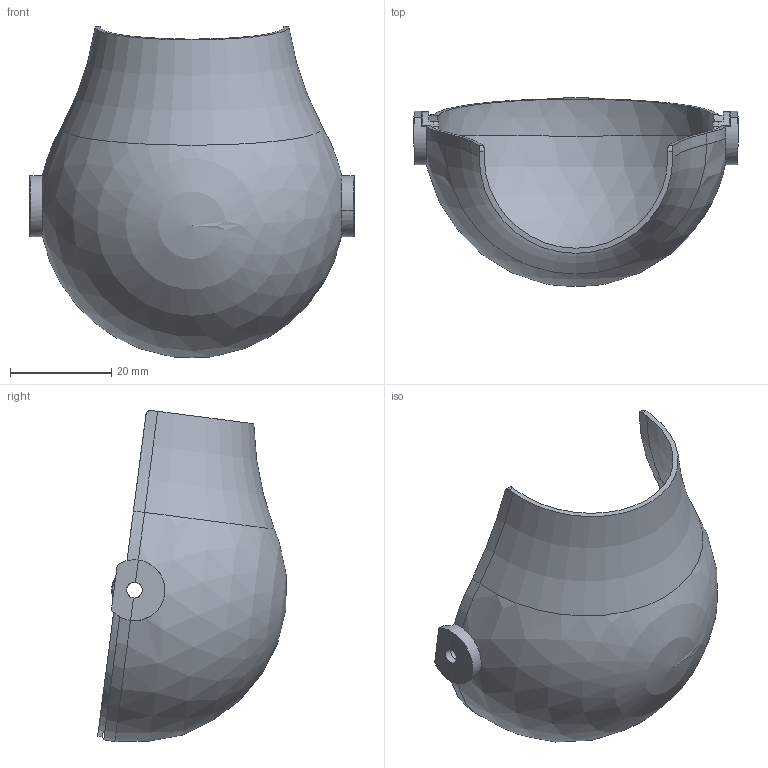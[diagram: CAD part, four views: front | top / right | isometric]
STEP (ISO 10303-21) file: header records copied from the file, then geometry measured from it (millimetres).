
FILE_DESCRIPTION(('FreeCAD Model'),'2;1');
FILE_NAME('Open CASCADE Shape Model','2024-08-30T09:46:19',( 'Lukas Balthasar Pank'),('Astera LED Technology GmbH'), 'Open CASCADE STEP processor 7.6','FreeCAD','Unknown');
FILE_SCHEMA(('AUTOMOTIVE_DESIGN { 1 0 10303 214 1 1 1 1 }'));
Length unit declared in the file: millimetre
Products named in the file (3): FP-LSBL_LunaShade with Blocker_3D-STEP; LunasShade Diffusion; LunaShade Body
Assembly tree (2 placements, depth 2):
  FP-LSBL_LunaShade with Blocker_3D-STEP
    LunasShade Diffusion
    LunaShade Body
Bounding box: 64 x 37.22 x 65.3 mm (x, y, z)
Volume: 10290.2 mm3; surface area: 20743.7 mm2
Topology: 2 solids, 2 shells, 95 faces, 277 edges, 181 vertices
Faces by surface type: plane 33, cylinder 24, sphere 14, cone 12, torus 9, bspline 3
Entity records: 3456 total; most frequent: CARTESIAN_POINT 814, DIRECTION 550, ORIENTED_EDGE 546, EDGE_CURVE 273, AXIS2_PLACEMENT_3D 234, VERTEX_POINT 181, CIRCLE 139, FACE_BOUND 102
